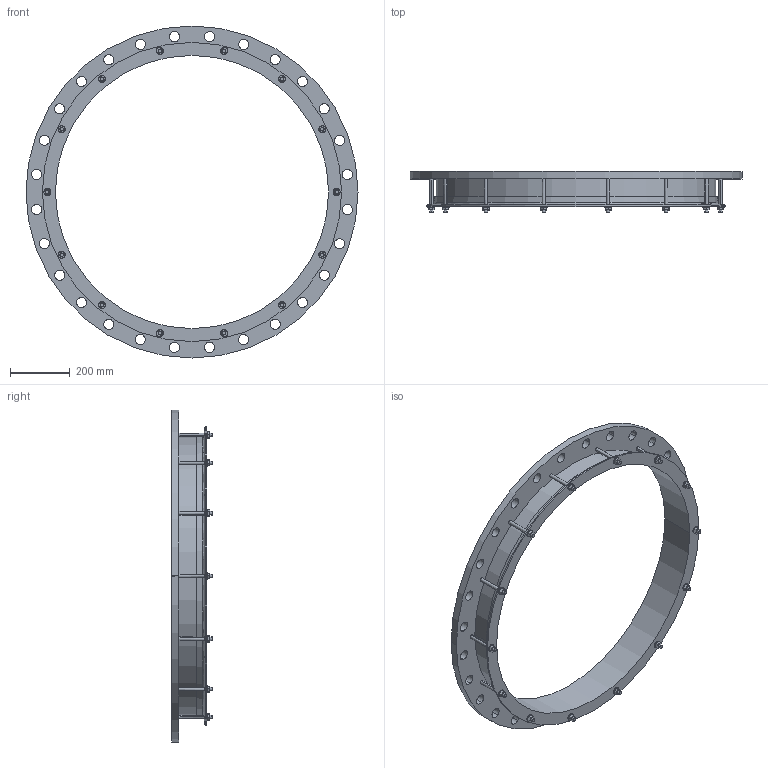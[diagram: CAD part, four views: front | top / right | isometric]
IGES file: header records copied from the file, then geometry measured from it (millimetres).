
Start section:  PTC IGES file: 914x900pn10.igs
Global section: file name: 914x900pn10.igs; native system: Creo Parametric by PTC Inc.; preprocessor: 2016130; author: mfairey; organization: Unknown; date: 20190116.151057; units: millimetre
Bounding box: 1115 x 137.45 x 1115 mm (x, y, z)
Surface area: 1592615.3 mm2 (no closed solid volume)
Topology: 0 solids, 0 shells, 284 faces, 1504 edges, 1504 vertices
Faces by surface type: revolution 154, bspline 130
